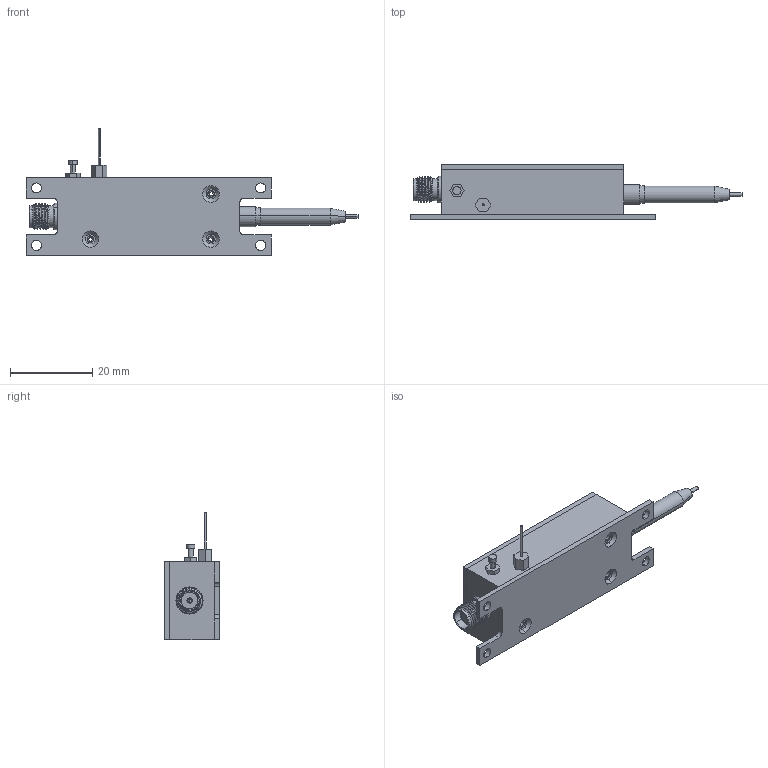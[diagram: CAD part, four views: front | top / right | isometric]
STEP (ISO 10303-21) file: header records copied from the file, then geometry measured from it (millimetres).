
FILE_DESCRIPTION (( 'STEP AP214' ), '1' );
FILE_NAME ('6GHz Amplified Receiver website.STEP', '2026-06-21T23:14:27', ( 'Windows User' ), ( '' ), 'SwSTEP 2.0', 'SolidWorks 2023', '' );
FILE_SCHEMA (( 'AUTOMOTIVE_DESIGN' ));
Length unit declared in the file: inch
Products named in the file (1): 6GHz Amplified Receiver website
Bounding box: 80.85 x 13.34 x 31.05 mm (x, y, z)
Surface area: 5730.1 mm2 (no closed solid volume)
Topology: 0 solids, 15 shells, 226 faces, 657 edges, 454 vertices
Faces by surface type: plane 103, cylinder 64, cone 47, bspline 6, torus 6
Entity records: 9773 total; most frequent: CARTESIAN_POINT 3942, DIRECTION 1169, ORIENTED_EDGE 1139, EDGE_CURVE 657, VERTEX_POINT 454, AXIS2_PLACEMENT_3D 426, VECTOR 317, LINE 317
